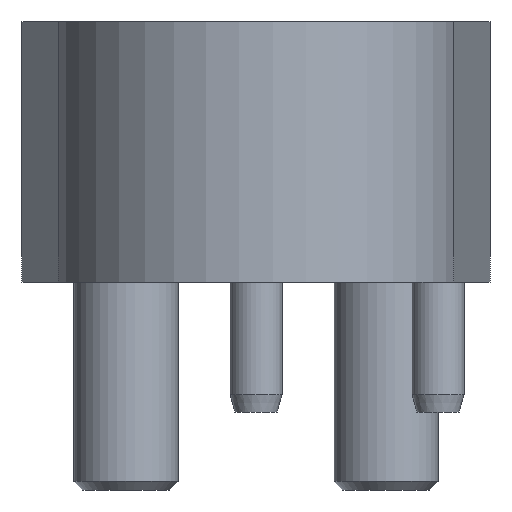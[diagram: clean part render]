
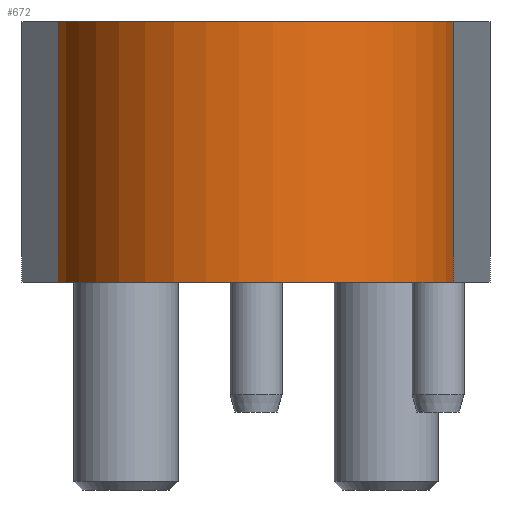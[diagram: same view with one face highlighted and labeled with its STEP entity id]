
A CAD part, left-side view. The second image highlights one B-rep face of the part: STEP entity #672.
In plain terms, the highlighted cylindrical face has radius 23 mm (diameter 46 mm), a partial arc.
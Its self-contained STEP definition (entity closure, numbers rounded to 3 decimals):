
#147=CYLINDRICAL_SURFACE('',#2282,23.);
#222=FACE_OUTER_BOUND('',#913,.T.);
#362=LINE('',#3331,#526);
#365=LINE('',#3337,#529);
#526=VECTOR('',#2657,1.);
#529=VECTOR('',#2662,1.);
#672=ADVANCED_FACE('',(#222),#147,.T.);
#913=EDGE_LOOP('',(#1191,#1192,#1193,#1194));
#1191=ORIENTED_EDGE('',*,*,#1884,.T.);
#1192=ORIENTED_EDGE('',*,*,#1885,.F.);
#1193=ORIENTED_EDGE('',*,*,#1881,.F.);
#1194=ORIENTED_EDGE('',*,*,#1886,.T.);
#1667=VERTEX_POINT('',#3332);
#1668=VERTEX_POINT('',#3333);
#1669=VERTEX_POINT('',#3338);
#1670=VERTEX_POINT('',#3339);
#1881=EDGE_CURVE('',#1667,#1668,#362,.T.);
#1884=EDGE_CURVE('',#1669,#1670,#365,.T.);
#1885=EDGE_CURVE('',#1668,#1670,#2117,.T.);
#1886=EDGE_CURVE('',#1667,#1669,#2118,.T.);
#2117=CIRCLE('',#2280,23.);
#2118=CIRCLE('',#2281,23.);
#2280=AXIS2_PLACEMENT_3D('',#3340,#2663,#2664);
#2281=AXIS2_PLACEMENT_3D('',#3341,#2665,#2666);
#2282=AXIS2_PLACEMENT_3D('',#3342,#2667,#2668);
#2657=DIRECTION('',(0.,0.,1.));
#2662=DIRECTION('',(0.,0.,1.));
#2663=DIRECTION('',(0.,0.,1.));
#2664=DIRECTION('',(-0.106,0.994,0.));
#2665=DIRECTION('',(0.,0.,1.));
#2666=DIRECTION('',(-0.106,0.994,0.));
#2667=DIRECTION('',(0.,0.,1.));
#2668=DIRECTION('',(-1.,0.,0.));
#3331=CARTESIAN_POINT('',(-3.085,22.792,0.));
#3332=CARTESIAN_POINT('',(-3.085,22.792,0.));
#3333=CARTESIAN_POINT('',(-3.085,22.792,30.));
#3337=CARTESIAN_POINT('',(-3.085,-22.792,0.));
#3338=CARTESIAN_POINT('',(-3.085,-22.792,0.));
#3339=CARTESIAN_POINT('',(-3.085,-22.792,30.));
#3340=CARTESIAN_POINT('',(0.,0.,30.));
#3341=CARTESIAN_POINT('',(0.,0.,0.));
#3342=CARTESIAN_POINT('',(0.,0.,0.));
